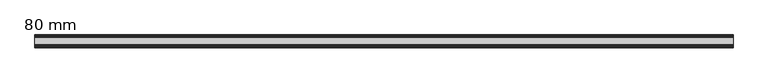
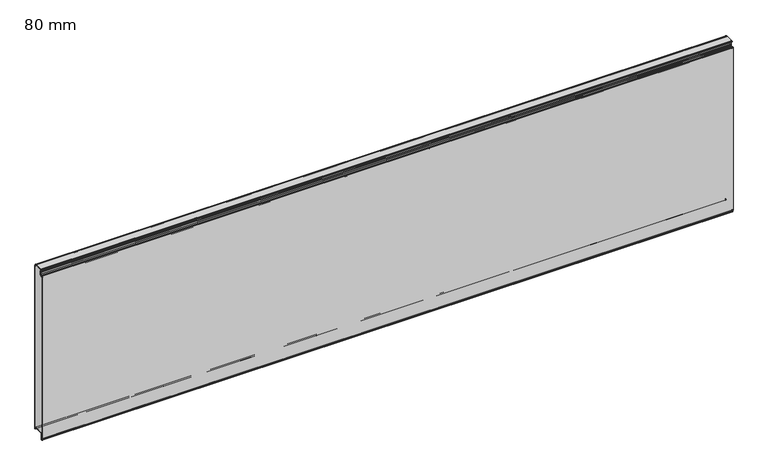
"""IFC4 building model written with IfcOpenShell, lengths in millimetres: plate geometry, HIANSA PANEL - H20.F05.004-HFM-PANELES DE FACHADA HOR - PANEL LISO - Panel de Muro Cortina : 80 mm."""

from ifc_helpers import new_model, si_unit, point, frame, frame_2d, origin, place, context, project, spatial, polyline, circle_curve, trimmed, segment, composite_curve, outline, extrude, source, transform, mapped, element, save


def plate_80_mm_28c6c57e(model_context):
    return source(origin(), model_context, "Body", "SweptSolid", [
        extrude(outline(polyline([(-63.7988607, 1122.7800953), (-63.0080811, 1123.2810466), (-13.7002601, 1123.2810466), (-12.8994274, 1122.7800953), (-63.7988607, 1122.7800953)])), frame((-2200.0, 0.0, 0.0), z_axis=(1.0, 0.0, 0.0), x_axis=(0.0, 1.0, 0.0)), (0.0, 0.0, 1.0), 4400.0),
        extrude(outline(polyline([(-63.772834, 25.3210467), (-12.920579, 25.3210467), (-13.7002595, 24.8210466), (-63.0110322, 24.8210466), (-63.772834, 25.3210467)])), frame((-2200.0, 0.0, 0.0), z_axis=(1.0, 0.0, 0.0), x_axis=(0.0, 1.0, 0.0)), (0.0, 0.0, 1.0), 4400.0),
        extrude(outline(composite_curve([segment(polyline([(-79.9990488, 1086.1667807), (-79.3593999, 1088.7253764)]), True, "CONTINUOUS"), segment(trimmed(circle_curve(frame_2d((-77.5161291, 1088.2645587)), 1.9), [point((-79.3593999, 1088.7253764))], [point((-77.5161291, 1090.1645587))], False, "CARTESIAN"), True, "CONTINUOUS"), segment(polyline([(-77.5161291, 1090.1645587), (-75.3767084, 1090.1645587)]), True, "CONTINUOUS"), segment(trimmed(circle_curve(frame_2d((-75.3767084, 1089.1645587)), 1.0), [point((-75.3767084, 1090.1645587))], [point((-74.3767084, 1089.1645587))], False, "CARTESIAN"), True, "CONTINUOUS"), segment(polyline([(-74.3767084, 1089.1645587), (-74.3767084, 1079.2490488)]), True, "CONTINUOUS"), segment(trimmed(circle_curve(frame_2d((-73.3767084, 1079.2490488)), 1.0), [point((-74.3767084, 1079.2490488))], [point((-73.3767084, 1078.2490488))], True, "CARTESIAN"), True, "CONTINUOUS"), segment(polyline([(-73.3767084, 1078.2490488), (-69.1267084, 1078.2490488)]), True, "CONTINUOUS"), segment(trimmed(circle_curve(frame_2d((-69.1267084, 1079.2490488)), 1.0), [point((-69.1267084, 1078.2490488))], [point((-68.1267084, 1079.2490488))], True, "CARTESIAN"), True, "CONTINUOUS"), segment(polyline([(-68.1267084, 1079.2490488), (-68.1267084, 1082.1003519)]), True, "CONTINUOUS"), segment(trimmed(circle_curve(frame_2d((-66.1267084, 1082.1003519)), 2.0), [point((-68.1267084, 1082.1003519))], [point((-67.2738613, 1083.738656))], False, "CARTESIAN"), True, "CONTINUOUS"), segment(polyline([(-67.2738613, 1083.738656), (-61.2163437, 1087.9801754)]), True, "CONTINUOUS"), segment(trimmed(circle_curve(frame_2d((-62.0767084, 1089.2089035)), 1.5), [point((-61.2163437, 1087.9801754))], [point((-60.5767084, 1089.2089035))], True, "CARTESIAN"), True, "CONTINUOUS"), segment(polyline([(-60.5767084, 1089.2089035), (-60.5767084, 1098.4402031), (-59.6767084, 1099.9990488), (-60.5767084, 1101.5578945), (-60.5767084, 1110.7891941)]), True, "CONTINUOUS"), segment(trimmed(circle_curve(frame_2d((-62.0767084, 1110.7891941)), 1.5), [point((-60.5767084, 1110.7891941))], [point((-61.2163437, 1112.0179221))], True, "CARTESIAN"), True, "CONTINUOUS"), segment(polyline([(-61.2163437, 1112.0179221), (-67.2738613, 1116.2594416)]), True, "CONTINUOUS"), segment(trimmed(circle_curve(frame_2d((-66.1267084, 1117.8977457)), 2.0), [point((-67.2738613, 1116.2594416))], [point((-68.1267084, 1117.8977457))], False, "CARTESIAN"), True, "CONTINUOUS"), segment(polyline([(-68.1267084, 1117.8977457), (-68.1267084, 1121.2800953)]), True, "CONTINUOUS"), segment(trimmed(circle_curve(frame_2d((-66.1267084, 1121.2800953)), 2.0), [point((-68.1267084, 1121.2800953))], [point((-66.1267084, 1123.2800953))], False, "CARTESIAN"), True, "CONTINUOUS"), segment(polyline([(-66.1267084, 1123.2800953), (-63.0095828, 1123.2800953), (-63.7988607, 1122.7800953), (-66.1267084, 1122.7800953)]), True, "CONTINUOUS"), segment(trimmed(circle_curve(frame_2d((-66.1267084, 1121.2800953)), 1.5), [point((-66.1267084, 1122.7800953))], [point((-67.6267084, 1121.2800953))], True, "CARTESIAN"), True, "CONTINUOUS"), segment(polyline([(-67.6267084, 1121.2800953), (-67.6267084, 1117.8977457)]), True, "CONTINUOUS"), segment(trimmed(circle_curve(frame_2d((-66.1267084, 1117.8977457)), 1.5), [point((-67.6267084, 1117.8977457))], [point((-66.987073, 1116.6690176))], True, "CARTESIAN"), True, "CONTINUOUS"), segment(polyline([(-66.987073, 1116.6690176), (-60.9295555, 1112.4274982)]), True, "CONTINUOUS"), segment(trimmed(circle_curve(frame_2d((-62.0767084, 1110.7891941)), 2.0), [point((-60.9295555, 1112.4274982))], [point((-60.0767084, 1110.7891941))], False, "CARTESIAN"), True, "CONTINUOUS"), segment(polyline([(-60.0767084, 1110.7891941), (-60.0767084, 1101.6918691), (-59.3880333, 1100.4990488)]), True, "CONTINUOUS"), segment(trimmed(circle_curve(frame_2d((-60.2540587, 1099.9990488)), 1.0), [point((-59.3880333, 1100.4990488))], [point((-59.3880333, 1099.4990488))], False, "CARTESIAN"), True, "CONTINUOUS"), segment(polyline([(-59.3880333, 1099.4990488), (-60.0767084, 1098.3062285), (-60.0767084, 1089.2089035)]), True, "CONTINUOUS"), segment(trimmed(circle_curve(frame_2d((-62.0767084, 1089.2089035)), 2.0), [point((-60.0767084, 1089.2089035))], [point((-60.9295555, 1087.5705994))], False, "CARTESIAN"), True, "CONTINUOUS"), segment(polyline([(-60.9295555, 1087.5705994), (-66.987073, 1083.32908)]), True, "CONTINUOUS"), segment(trimmed(circle_curve(frame_2d((-66.1267084, 1082.1003519)), 1.5), [point((-66.987073, 1083.32908))], [point((-67.6267084, 1082.1003519))], True, "CARTESIAN"), True, "CONTINUOUS"), segment(polyline([(-67.6267084, 1082.1003519), (-67.6267084, 1079.2490488)]), True, "CONTINUOUS"), segment(trimmed(circle_curve(frame_2d((-69.1267084, 1079.2490488)), 1.5), [point((-67.6267084, 1079.2490488))], [point((-69.1267084, 1077.7490488))], False, "CARTESIAN"), True, "CONTINUOUS"), segment(polyline([(-69.1267084, 1077.7490488), (-73.3767084, 1077.7490488)]), True, "CONTINUOUS"), segment(trimmed(circle_curve(frame_2d((-73.3767084, 1079.2490488)), 1.5), [point((-73.3767084, 1077.7490488))], [point((-74.8767084, 1079.2490488))], False, "CARTESIAN"), True, "CONTINUOUS"), segment(polyline([(-74.8767084, 1079.2490488), (-74.8767084, 1089.6645587), (-77.5161291, 1089.6645587)]), True, "CONTINUOUS"), segment(trimmed(circle_curve(frame_2d((-77.5161291, 1088.2645587)), 1.4), [point((-77.5161291, 1089.6645587))], [point((-78.8743286, 1088.6041086))], True, "CARTESIAN"), True, "CONTINUOUS"), segment(polyline([(-78.8743286, 1088.6041086), (-79.4990488, 1086.1052279), (-79.4990488, -5.7761105), (-78.8741312, -8.2757808)]), True, "CONTINUOUS"), segment(trimmed(circle_curve(frame_2d((-77.5169431, -7.9364838)), 1.3989577), [point((-78.8741312, -8.2757808))], [point((-77.5169431, -9.3354415))], True, "CARTESIAN"), True, "CONTINUOUS"), segment(polyline([(-77.5169431, -9.3354415), (-75.1267084, -9.3354413)]), True, "CONTINUOUS"), segment(trimmed(circle_curve(frame_2d((-75.1267084, -10.8354413)), 1.5), [point((-75.1267084, -9.3354413))], [point((-73.6267084, -10.8354413))], False, "CARTESIAN"), True, "CONTINUOUS"), segment(polyline([(-73.6267084, -10.8354413), (-73.6267084, -20.7509512), (-68.8767084, -20.7509512), (-68.8767084, 22.7800953)]), True, "CONTINUOUS"), segment(trimmed(circle_curve(frame_2d((-66.3367084, 22.7800953)), 2.54), [point((-68.8767084, 22.7800953))], [point((-66.3367084, 25.3200953))], False, "CARTESIAN"), True, "CONTINUOUS"), segment(polyline([(-66.3367084, 25.3200953), (-63.7713844, 25.3200953), (-63.0095828, 24.8200953), (-66.3367084, 24.8200953)]), True, "CONTINUOUS"), segment(trimmed(circle_curve(frame_2d((-66.3367084, 22.7800953)), 2.04), [point((-66.3367084, 24.8200953))], [point((-68.3767084, 22.7800953))], True, "CARTESIAN"), True, "CONTINUOUS"), segment(polyline([(-68.3767084, 22.7800953), (-68.3767084, -20.2509512)]), True, "CONTINUOUS"), segment(trimmed(circle_curve(frame_2d((-69.3767084, -20.2509512)), 1.0), [point((-68.3767084, -20.2509512))], [point((-69.3767084, -21.2509512))], False, "CARTESIAN"), True, "CONTINUOUS"), segment(polyline([(-69.3767084, -21.2509512), (-73.1267084, -21.2509512)]), True, "CONTINUOUS"), segment(trimmed(circle_curve(frame_2d((-73.1267084, -20.2509512)), 1.0), [point((-73.1267084, -21.2509512))], [point((-74.1267084, -20.2509512))], False, "CARTESIAN"), True, "CONTINUOUS"), segment(polyline([(-74.1267084, -20.2509512), (-74.1267084, -10.8354413)]), True, "CONTINUOUS"), segment(trimmed(circle_curve(frame_2d((-75.1267084, -10.8354413)), 1.0), [point((-74.1267084, -10.8354413))], [point((-75.1267084, -9.8354413))], True, "CARTESIAN"), True, "CONTINUOUS"), segment(polyline([(-75.1267084, -9.8354413), (-77.5161291, -9.8354413)]), True, "CONTINUOUS"), segment(trimmed(circle_curve(frame_2d((-77.5161291, -7.9354413)), 1.9), [point((-77.5161291, -9.8354413))], [point((-79.3593999, -8.396259))], False, "CARTESIAN"), True, "CONTINUOUS"), segment(polyline([(-79.3593999, -8.396259), (-79.9990488, -5.8376633), (-79.9990488, 1086.1667807)]), True, "CONTINUOUS")], self_intersect=False)), frame((-2200.0, 0.0, 0.0), z_axis=(1.0, 0.0, 0.0), x_axis=(0.0, 1.0, 0.0)), (0.0, 0.0, 1.0), 4400.0),
        extrude(outline(composite_curve([segment(polyline([(-79.4927405, -5.8041988), (-79.4927405, 1086.1352189), (-78.8752803, 1088.6050599)]), True, "CONTINUOUS"), segment(trimmed(circle_curve(frame_2d((-77.5170808, 1088.26551)), 1.4), [point((-78.8752803, 1088.6050599))], [point((-77.5170808, 1089.66551))], False, "CARTESIAN"), True, "CONTINUOUS"), segment(polyline([(-77.5170808, 1089.66551), (-74.8776601, 1089.66551), (-74.8776601, 1079.2500001)]), True, "CONTINUOUS"), segment(trimmed(circle_curve(frame_2d((-73.3776601, 1079.2500001)), 1.5), [point((-74.8776601, 1079.2500001))], [point((-73.3776601, 1077.7500001))], True, "CARTESIAN"), True, "CONTINUOUS"), segment(polyline([(-73.3776601, 1077.7500001), (-69.1276601, 1077.7500001)]), True, "CONTINUOUS"), segment(trimmed(circle_curve(frame_2d((-69.1276601, 1079.2500001)), 1.5), [point((-69.1276601, 1077.7500001))], [point((-67.6276601, 1079.2500001))], True, "CARTESIAN"), True, "CONTINUOUS"), segment(polyline([(-67.6276601, 1079.2500001), (-67.6276601, 1082.1013032)]), True, "CONTINUOUS"), segment(trimmed(circle_curve(frame_2d((-66.1276601, 1082.1013032)), 1.5), [point((-67.6276601, 1082.1013032))], [point((-66.9880247, 1083.3300313))], False, "CARTESIAN"), True, "CONTINUOUS"), segment(polyline([(-66.9880247, 1083.3300313), (-60.9305072, 1087.5715507)]), True, "CONTINUOUS"), segment(trimmed(circle_curve(frame_2d((-62.0776601, 1089.2098548)), 2.0), [point((-60.9305072, 1087.5715507))], [point((-60.0776601, 1089.2098548))], True, "CARTESIAN"), True, "CONTINUOUS"), segment(polyline([(-60.0776601, 1089.2098548), (-60.0776601, 1098.3071798), (-59.3889849, 1099.5000001)]), True, "CONTINUOUS"), segment(trimmed(circle_curve(frame_2d((-60.2550103, 1100.0000001)), 1.0), [point((-59.3889849, 1099.5000001))], [point((-59.3889849, 1100.5000001))], True, "CARTESIAN"), True, "CONTINUOUS"), segment(polyline([(-59.3889849, 1100.5000001), (-60.0776601, 1101.6928204), (-60.0776601, 1110.7901454)]), True, "CONTINUOUS"), segment(trimmed(circle_curve(frame_2d((-62.0776601, 1110.7901454)), 2.0), [point((-60.0776601, 1110.7901454))], [point((-60.9305072, 1112.4284495))], True, "CARTESIAN"), True, "CONTINUOUS"), segment(polyline([(-60.9305072, 1112.4284495), (-66.9880247, 1116.6699689)]), True, "CONTINUOUS"), segment(trimmed(circle_curve(frame_2d((-66.1276601, 1117.898697)), 1.5), [point((-66.9880247, 1116.6699689))], [point((-67.6276601, 1117.898697))], False, "CARTESIAN"), True, "CONTINUOUS"), segment(polyline([(-67.6276601, 1117.898697), (-67.6276601, 1121.2810466)]), True, "CONTINUOUS"), segment(trimmed(circle_curve(frame_2d((-66.1276601, 1121.2810466)), 1.5), [point((-67.6276601, 1121.2810466))], [point((-66.1276601, 1122.7810466))], False, "CARTESIAN"), True, "CONTINUOUS"), segment(polyline([(-66.1276601, 1122.7810466), (-7.7500005, 1122.7810466)]), True, "CONTINUOUS"), segment(trimmed(circle_curve(frame_2d((-7.7500005, 1121.7810466)), 1.0), [point((-7.7500005, 1122.7810466))], [point((-6.7500005, 1121.7810466))], False, "CARTESIAN"), True, "CONTINUOUS"), segment(polyline([(-6.7500005, 1121.7810466), (-6.7500005, 1115.631732)]), True, "CONTINUOUS"), segment(trimmed(circle_curve(frame_2d((-4.7460005, 1115.631732)), 2.004), [point((-6.7500005, 1115.631732))], [point((-4.7460005, 1113.627732))], True, "CARTESIAN"), True, "CONTINUOUS"), segment(polyline([(-4.7460005, 1113.627732), (-1.5, 1113.627732)]), True, "CONTINUOUS"), segment(trimmed(circle_curve(frame_2d((-1.5, 1112.627732)), 1.0), [point((-1.5, 1113.627732))], [point((-0.5, 1112.627732))], False, "CARTESIAN"), True, "CONTINUOUS"), segment(polyline([(-0.5, 1112.627732), (-0.5, 1087.7488722), (-1.5000005, 1084.7488708), (-1.5000005, 1044.5865932), (-0.5000005, 1041.5865932), (-0.5000005, 996.7488708), (-1.5000005, 993.7488708), (-1.5000005, 953.5865932), (-0.5000005, 950.5865932), (-0.5000005, 905.7488708), (-1.5000005, 902.7488708), (-1.5000005, 862.5865932), (-0.5000005, 859.5865932), (-0.5000005, 814.7488708), (-1.5000005, 811.7488708), (-1.5000005, 771.5865932), (-0.5000005, 768.5865932), (-0.5000005, 723.7488708), (-1.5000005, 720.7488708), (-1.5000005, 680.5865932), (-0.5000005, 677.5865932), (-0.5000005, 632.7488708), (-1.5000005, 629.7488708), (-1.5000005, 589.5865932), (-0.5000005, 586.5865932), (-0.5000005, 541.7488708), (-1.5000005, 538.7488708), (-1.5000005, 498.5865932), (-0.5000005, 495.5865932), (-0.5000005, 450.7488708), (-1.5000005, 447.7488708), (-1.5000005, 407.5865932), (-0.5000005, 404.5865932), (-0.5000005, 359.7488708), (-1.5000005, 356.7488708), (-1.5000005, 316.5865932), (-0.5000005, 313.5865932), (-0.5000005, 268.7488708), (-1.5000005, 265.7488708), (-1.5000005, 225.5865932), (-0.5000005, 222.5865932), (-0.5000005, 177.7488708), (-1.5000005, 174.7488708), (-1.5000005, 134.5865932), (-0.5000005, 131.5865932), (-0.5000005, 86.7488708), (-1.5000005, 83.7488708), (-1.5000005, 43.5865932), (-0.5, 40.5865932), (-0.5, 15.6677319)]), True, "CONTINUOUS"), segment(trimmed(circle_curve(frame_2d((-1.4999997, 15.6677319)), 0.9999997), [point((-0.5, 15.6677319))], [point((-1.4999977, 14.6677322))], False, "CARTESIAN"), True, "CONTINUOUS"), segment(polyline([(-1.4999977, 14.6677322), (-4.4999978, 14.6677261)]), True, "CONTINUOUS"), segment(trimmed(circle_curve(frame_2d((-4.4999998, 15.6677321)), 1.0000061), [point((-4.4999978, 14.6677261))], [point((-5.5000059, 15.6677321))], False, "CARTESIAN"), True, "CONTINUOUS"), segment(polyline([(-5.5000059, 15.6677321), (-5.5000059, 23.2810466)]), True, "CONTINUOUS"), segment(trimmed(circle_curve(frame_2d((-7.540006, 23.2810466)), 2.0400002), [point((-5.5000059, 23.2810466))], [point((-7.540006, 25.3210467))], True, "CARTESIAN"), True, "CONTINUOUS"), segment(polyline([(-7.540006, 25.3210467), (-66.3376599, 25.3210467)]), True, "CONTINUOUS"), segment(trimmed(circle_curve(frame_2d((-66.3376599, 22.7810466)), 2.5400001), [point((-66.3376599, 25.3210467))], [point((-68.8776601, 22.7810466))], True, "CARTESIAN"), True, "CONTINUOUS"), segment(polyline([(-68.8776601, 22.7810466), (-68.8776601, -20.7499999), (-73.6276601, -20.7499999), (-73.6276601, -10.83449)]), True, "CONTINUOUS"), segment(trimmed(circle_curve(frame_2d((-75.1276601, -10.83449)), 1.5), [point((-73.6276601, -10.83449))], [point((-75.1276601, -9.33449))], True, "CARTESIAN"), True, "CONTINUOUS"), segment(polyline([(-75.1276601, -9.33449), (-77.5178947, -9.33449)]), True, "CONTINUOUS"), segment(trimmed(circle_curve(frame_2d((-77.5178947, -7.9355324)), 1.3989576), [point((-77.5178947, -9.33449))], [point((-78.8750829, -8.2748295))], False, "CARTESIAN"), True, "CONTINUOUS"), segment(polyline([(-78.8750829, -8.2748295), (-79.4927405, -5.8041988)]), True, "CONTINUOUS")], self_intersect=False)), frame((-2200.0, 0.0, 0.0), z_axis=(1.0, 0.0, 0.0), x_axis=(0.0, 1.0, 0.0)), (0.0, 0.0, 1.0), 4400.0),
        extrude(outline(composite_curve([segment(polyline([(-13.7002597, 24.8210465), (-12.9205793, 25.3210465), (-7.5400057, 25.3210465)]), True, "CONTINUOUS"), segment(trimmed(circle_curve(frame_2d((-7.5400057, 23.2810465)), 2.04), [point((-7.5400057, 25.3210465))], [point((-5.5000057, 23.2810465))], False, "CARTESIAN"), True, "CONTINUOUS"), segment(polyline([(-5.5000057, 23.2810465), (-5.5000057, 15.6677319)]), True, "CONTINUOUS"), segment(trimmed(circle_curve(frame_2d((-4.5, 15.6677319)), 1.0000057), [point((-5.5000057, 15.6677319))], [point((-4.4999981, 14.6677262))], True, "CARTESIAN"), True, "CONTINUOUS"), segment(polyline([(-4.4999981, 14.6677262), (-1.4999981, 14.6677319)]), True, "CONTINUOUS"), segment(trimmed(circle_curve(frame_2d((-1.5, 15.6677319)), 1.0), [point((-1.4999981, 14.6677319))], [point((-0.5, 15.6677319))], True, "CARTESIAN"), True, "CONTINUOUS"), segment(polyline([(-0.5, 15.6677319), (-0.5, 40.5865931), (-1.5, 43.5865931), (-1.5, 83.7488708), (-0.5, 86.7488708), (-0.5, 131.5865931), (-1.5, 134.5865931), (-1.5, 174.7488708), (-0.5, 177.7488708), (-0.5, 222.5865931), (-1.5, 225.5865931), (-1.5, 265.7488708), (-0.5, 268.7488708), (-0.5, 313.5865931), (-1.5, 316.5865931), (-1.5, 356.7488708), (-0.5, 359.7488708), (-0.5, 404.5865931), (-1.5, 407.5865931), (-1.5, 447.7488708), (-0.5, 450.7488708), (-0.5, 495.5865931), (-1.5, 498.5865931), (-1.5, 538.7488708), (-0.5, 541.7488708), (-0.5, 586.5865931), (-1.5, 589.5865931), (-1.5, 629.7488708), (-0.5, 632.7488708), (-0.5, 677.5865931), (-1.5, 680.5865931), (-1.5, 720.7488708), (-0.5, 723.7488708), (-0.5, 768.5865931), (-1.5, 771.5865931), (-1.5, 811.7488708), (-0.5, 814.7488708), (-0.5, 859.5865931), (-1.5, 862.5865931), (-1.5, 902.7488708), (-0.5, 905.7488708), (-0.5, 950.5865931), (-1.5, 953.5865931), (-1.5, 993.7488708), (-0.5, 996.7488708), (-0.5, 1041.5865931), (-1.5, 1044.5865931), (-1.5, 1084.7488708), (-0.5, 1087.7488708), (-0.5, 1112.6277319)]), True, "CONTINUOUS"), segment(trimmed(circle_curve(frame_2d((-1.5, 1112.6277319)), 1.0), [point((-0.5, 1112.6277319))], [point((-1.5, 1113.6277319))], True, "CARTESIAN"), True, "CONTINUOUS"), segment(polyline([(-1.5, 1113.6277319), (-4.746, 1113.6277319)]), True, "CONTINUOUS"), segment(trimmed(circle_curve(frame_2d((-4.746, 1115.6317319)), 2.004), [point((-4.746, 1113.6277319))], [point((-6.75, 1115.6317319))], False, "CARTESIAN"), True, "CONTINUOUS"), segment(polyline([(-6.75, 1115.6317319), (-6.75, 1121.7810465)]), True, "CONTINUOUS"), segment(trimmed(circle_curve(frame_2d((-7.75, 1121.7810465)), 1.0), [point((-6.75, 1121.7810465))], [point((-7.75, 1122.7810465))], True, "CARTESIAN"), True, "CONTINUOUS"), segment(polyline([(-7.75, 1122.7810465), (-12.9009477, 1122.7810465), (-13.7002597, 1123.2810465), (-7.7500057, 1123.2810465)]), True, "CONTINUOUS"), segment(trimmed(circle_curve(frame_2d((-7.7500057, 1121.7810465)), 1.5), [point((-7.7500057, 1123.2810465))], [point((-6.2500057, 1121.7810465))], False, "CARTESIAN"), True, "CONTINUOUS"), segment(polyline([(-6.2500057, 1121.7810465), (-6.2500057, 1115.631727)]), True, "CONTINUOUS"), segment(trimmed(circle_curve(frame_2d((-4.7460057, 1115.631727)), 1.504), [point((-6.2500057, 1115.631727))], [point((-4.7460034, 1114.127727))], True, "CARTESIAN"), True, "CONTINUOUS"), segment(polyline([(-4.7460034, 1114.127727), (-1.5000023, 1114.1277319)]), True, "CONTINUOUS"), segment(trimmed(circle_curve(frame_2d((-1.5, 1112.6277319)), 1.5), [point((-1.5000023, 1114.1277319))], [point((0.0, 1112.6277319))], False, "CARTESIAN"), True, "CONTINUOUS"), segment(polyline([(0.0, 1112.6277319), (0.0, 1087.6677319), (-1.0, 1084.6677319), (-1.0, 1044.6677319), (0.0, 1041.6677319), (0.0, 996.6677319), (-1.0, 993.6677319), (-1.0, 953.6677319), (0.0, 950.6677319), (0.0, 905.6677319), (-1.0, 902.6677319), (-1.0, 862.6677319), (0.0, 859.6677319), (0.0, 814.6677319), (-1.0, 811.6677319), (-1.0, 771.6677319), (0.0, 768.6677319), (0.0, 723.6677319), (-1.0, 720.6677319), (-1.0, 680.6677319), (0.0, 677.6677319), (0.0, 632.6677319), (-1.0, 629.6677319), (-1.0, 589.6677319), (0.0, 586.6677319), (0.0, 541.6677319), (-1.0, 538.6677319), (-1.0, 498.6677319), (0.0, 495.6677319), (0.0, 450.6677319), (-1.0, 447.6677319), (-1.0, 407.6677319), (0.0, 404.6677319), (0.0, 359.6677319), (-1.0, 356.6677319), (-1.0, 316.6677319), (0.0, 313.6677319), (0.0, 268.6677319), (-1.0, 265.6677319), (-1.0, 225.6677319), (0.0, 222.6677319), (0.0, 177.6677319), (-1.0, 174.6677319), (-1.0, 134.6677319), (0.0, 131.6677319), (0.0, 86.6677319), (-1.0, 83.6677319), (-1.0, 43.6677319), (0.0, 40.6677319), (0.0, 15.6677319)]), True, "CONTINUOUS"), segment(trimmed(circle_curve(frame_2d((-1.5, 15.6677319)), 1.5), [point((0.0, 15.6677319))], [point((-1.5, 14.1677319))], False, "CARTESIAN"), True, "CONTINUOUS"), segment(polyline([(-1.5, 14.1677319), (-4.5, 14.1677319)]), True, "CONTINUOUS"), segment(trimmed(circle_curve(frame_2d((-4.5, 15.6677319)), 1.5), [point((-4.5, 14.1677319))], [point((-6.0, 15.6677319))], False, "CARTESIAN"), True, "CONTINUOUS"), segment(polyline([(-6.0, 15.6677319), (-6.0, 23.2810465)]), True, "CONTINUOUS"), segment(trimmed(circle_curve(frame_2d((-7.54, 23.2810465)), 1.54), [point((-6.0, 23.2810465))], [point((-7.54, 24.8210465))], True, "CARTESIAN"), True, "CONTINUOUS"), segment(polyline([(-7.54, 24.8210465), (-13.7002597, 24.8210465)]), True, "CONTINUOUS")], self_intersect=False)), frame((-2200.0, 0.0, 0.0), z_axis=(1.0, 0.0, 0.0), x_axis=(0.0, 1.0, 0.0)), (0.0, 0.0, 1.0), 4400.0),
    ])


if __name__ == "__main__":
    model = new_model("IFC4")
    model_context = context("Model", 3, world=origin())
    ifc_project = project(units=[si_unit("LENGTHUNIT", "METRE", prefix="MILLI")], contexts=[model_context])
    site = spatial("IfcSite", under=ifc_project)
    building = spatial("IfcBuilding", under=site)
    placement = place(None, origin())
    plate_80_mm_shape = plate_80_mm_28c6c57e(model_context)
    element("IfcPlate", 1, ObjectType="HIANSA PANEL - H20.F05.004-HFM-PANELES DE FACHADA HOR - PANEL LISO - Panel de Muro Cortina : 80 mm", at=placement, inside=building, context=model_context, shape_type="MappedRepresentation", body=[
        mapped(plate_80_mm_shape, transform((0.0, 0.0, 0.0), x_axis=(1.0, 0.0, 0.0), y_axis=(0.0, 1.0, 0.0), z_axis=(0.0, 0.0, 1.0))),
    ])
    save(model, "model.ifc")
